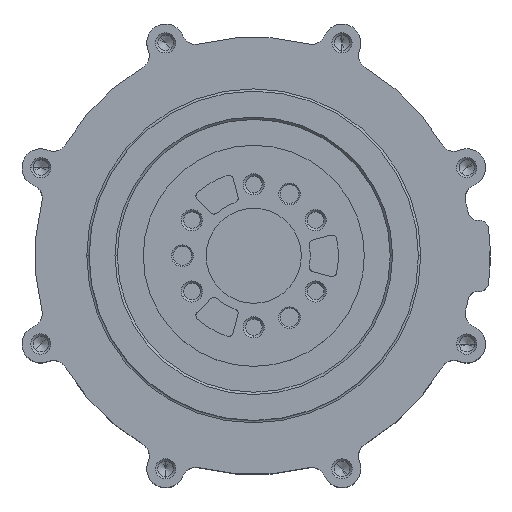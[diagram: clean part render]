
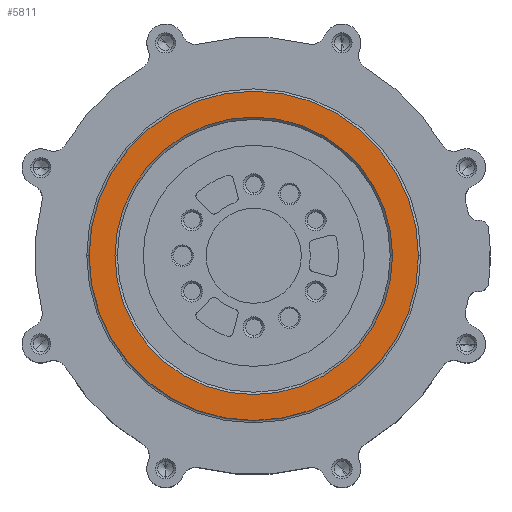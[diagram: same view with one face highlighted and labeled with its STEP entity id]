
A CAD part, top view. The second image highlights one B-rep face of the part: STEP entity #5811.
In plain terms, the highlighted planar face has unit normal (0, 0, 1).
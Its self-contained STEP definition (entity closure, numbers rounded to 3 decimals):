
#1217=CARTESIAN_POINT('',(0.,0.,37.5));
#1218=DIRECTION('',(0.,0.,1.));
#1219=DIRECTION('',(1.,0.,0.));
#1220=AXIS2_PLACEMENT_3D('',#1217,#1218,#1219);
#1222=CARTESIAN_POINT('',(0.,0.,37.5));
#1223=DIRECTION('',(0.,0.,1.));
#1224=DIRECTION('',(-1.,0.,0.));
#1225=AXIS2_PLACEMENT_3D('',#1222,#1223,#1224);
#1227=CARTESIAN_POINT('',(0.,0.,37.5));
#1228=DIRECTION('',(0.,0.,-1.));
#1229=DIRECTION('',(1.,0.,0.));
#1230=AXIS2_PLACEMENT_3D('',#1227,#1228,#1229);
#1232=CARTESIAN_POINT('',(0.,0.,37.5));
#1233=DIRECTION('',(0.,0.,-1.));
#1234=DIRECTION('',(-1.,0.,0.));
#1235=AXIS2_PLACEMENT_3D('',#1232,#1233,#1234);
#3401=CARTESIAN_POINT('',(35.,0.,37.5));
#3402=CARTESIAN_POINT('',(-35.,0.,37.5));
#3403=VERTEX_POINT('',#3401);
#3404=VERTEX_POINT('',#3402);
#3405=CARTESIAN_POINT('',(29.5,0.,37.5));
#3406=CARTESIAN_POINT('',(-29.5,0.,37.5));
#3407=VERTEX_POINT('',#3405);
#3408=VERTEX_POINT('',#3406);
#5796=CARTESIAN_POINT('',(0.,0.,37.5));
#5797=DIRECTION('',(0.,0.,1.));
#5798=DIRECTION('',(0.,1.,0.));
#5799=AXIS2_PLACEMENT_3D('',#5796,#5797,#5798);
#5800=PLANE('',#5799);
#5801=ORIENTED_EDGE('',*,*,#5790,.F.);
#5802=ORIENTED_EDGE('',*,*,#5776,.F.);
#5803=EDGE_LOOP('',(#5801,#5802));
#5804=FACE_OUTER_BOUND('',#5803,.F.);
#5806=ORIENTED_EDGE('',*,*,#5805,.F.);
#5808=ORIENTED_EDGE('',*,*,#5807,.F.);
#5809=EDGE_LOOP('',(#5806,#5808));
#5810=FACE_BOUND('',#5809,.F.);
#5811=ADVANCED_FACE('',(#5804,#5810),#5800,.T.);
#1221=CIRCLE('',#1220,35.);
#1226=CIRCLE('',#1225,35.);
#1231=CIRCLE('',#1230,29.5);
#1236=CIRCLE('',#1235,29.5);
#5776=EDGE_CURVE('',#3404,#3403,#1226,.T.);
#5790=EDGE_CURVE('',#3403,#3404,#1221,.T.);
#5805=EDGE_CURVE('',#3407,#3408,#1231,.T.);
#5807=EDGE_CURVE('',#3408,#3407,#1236,.T.);
